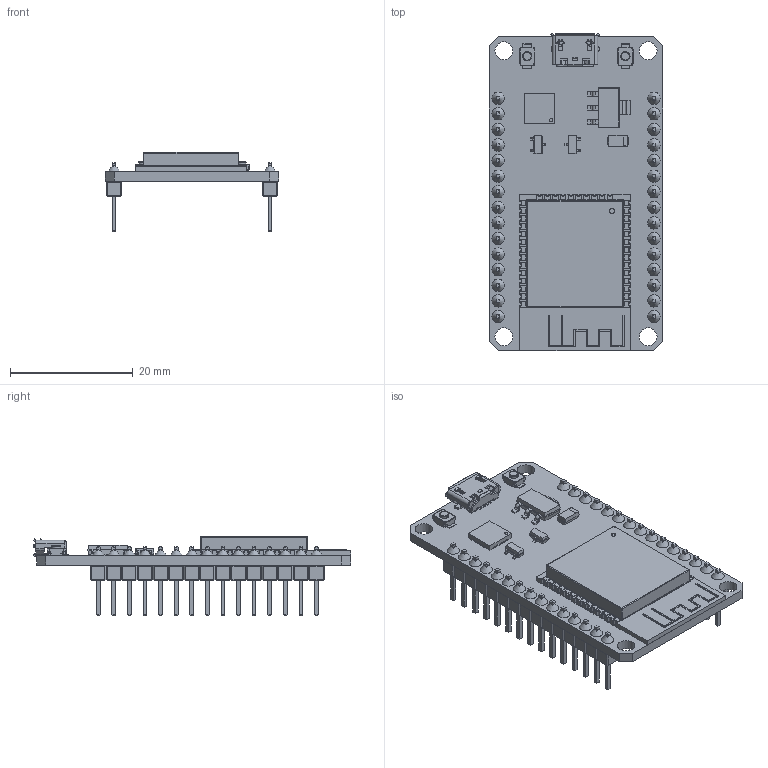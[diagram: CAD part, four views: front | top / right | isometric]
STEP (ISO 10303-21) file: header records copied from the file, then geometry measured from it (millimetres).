
FILE_DESCRIPTION(('FreeCAD Model'),'2;1');
FILE_NAME('Open CASCADE Shape Model','2023-08-01T11:29:19',('Author'),( ''),'Open CASCADE STEP processor 7.7','FreeCAD','Unknown');
FILE_SCHEMA(('AUTOMOTIVE_DESIGN { 1 0 10303 214 1 1 1 1 }'));
Length unit declared in the file: millimetre
Products named in the file (13): ESP32-devkit_v1; Печатная плата; Контактные ножки; Body001; ESP32-WROOM-32; USB_Micro-B_Molex_47346-0001; AMS-1117; cp2102; SOT_23-1; SOT_23-2; SW_SPST_B3U-1000P-1; SW_SPST_B3U-1000P-2; CP_EIA_3216_10_Kemet_I
Assembly tree (41 placements, depth 3):
  ESP32-devkit_v1
    Печатная плата
    Контактные ножки
      Body001  x30
    ESP32-WROOM-32
    USB_Micro-B_Molex_47346-0001
    AMS-1117
    cp2102
    SOT_23-1
    SOT_23-2
    SW_SPST_B3U-1000P-1
    SW_SPST_B3U-1000P-2
    CP_EIA_3216_10_Kemet_I
Bounding box: 28.3 x 51.77 x 12.9 mm (x, y, z)
Volume: 3998.1 mm3; surface area: 6679.8 mm2
Topology: 40 solids, 41 shells, 3685 faces, 8960 edges, 5374 vertices
Faces by surface type: plane 3011, cylinder 490, bspline 78, sphere 42, torus 34, cone 30
Full cylindrical faces by diameter (mm): 0.5 x1, 0.8 x2, 1.5 x2, 2.9 x4
Entity records: 168975 total; most frequent: CARTESIAN_POINT 34462, DIRECTION 22334, LINE 14583, VECTOR 14583, ORIENTED_EDGE 11862, PCURVE 11862, DEFINITIONAL_REPRESENTATION 11862, EDGE_CURVE 5931
